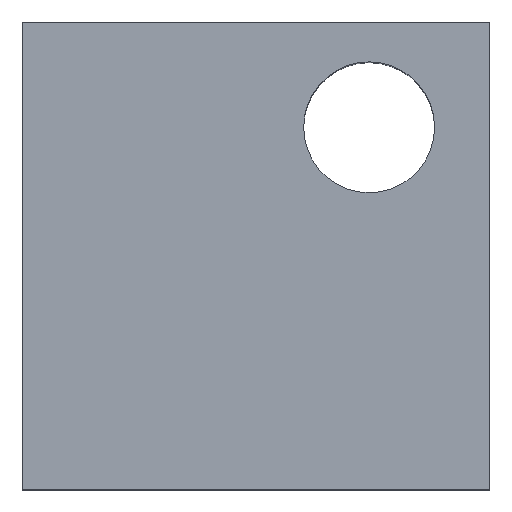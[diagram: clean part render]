
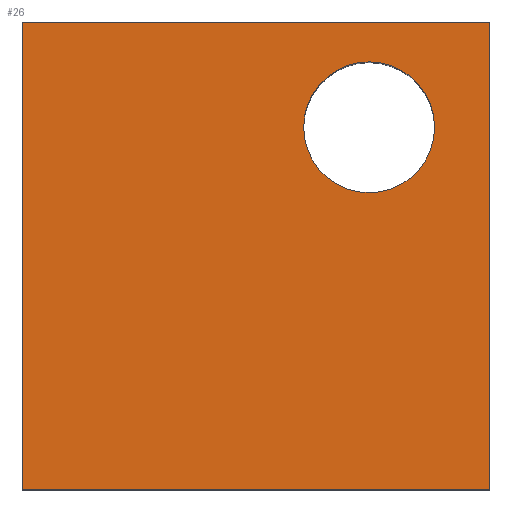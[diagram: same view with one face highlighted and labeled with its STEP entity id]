
A CAD part, top view. The second image highlights one B-rep face of the part: STEP entity #26.
In plain terms, the highlighted planar face has unit normal (0, 0, 1).
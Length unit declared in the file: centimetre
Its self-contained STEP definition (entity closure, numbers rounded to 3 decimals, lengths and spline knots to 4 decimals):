
#1 = AXIS2_PLACEMENT_3D ( 'NONE', #369, #212, #147 ) ;
#17 = CARTESIAN_POINT ( 'NONE',  ( 882.1807, 774.6054, 1000. ) ) ;
#20 = DIRECTION ( 'NONE',  ( 0., 0., -1. ) ) ;
#26 = ADVANCED_FACE ( 'NONE', ( #202, #272 ), #270, .T. ) ;
#28 = ORIENTED_EDGE ( 'NONE', *, *, #248, .T. ) ;
#42 = LINE ( 'NONE', #287, #184 ) ;
#60 = DIRECTION ( 'NONE',  ( 0., 1., 0. ) ) ;
#69 = EDGE_CURVE ( 'NONE', #247, #334, #151, .T. ) ;
#78 = VERTEX_POINT ( 'NONE', #209 ) ;
#111 = DIRECTION ( 'NONE',  ( -1., 0., 0. ) ) ;
#112 = DIRECTION ( 'NONE',  ( -1., 0., 0. ) ) ;
#114 = AXIS2_PLACEMENT_3D ( 'NONE', #144, #20, #111 ) ;
#116 = CARTESIAN_POINT ( 'NONE',  ( 0., 0., 1000. ) ) ;
#126 = AXIS2_PLACEMENT_3D ( 'NONE', #176, #214, #112 ) ;
#130 = CARTESIAN_POINT ( 'NONE',  ( 1000., 1000., 1000. ) ) ;
#143 = VECTOR ( 'NONE', #60, 100. ) ;
#144 = CARTESIAN_POINT ( 'NONE',  ( 742.0878, 774.6054, 1000. ) ) ;
#147 = DIRECTION ( 'NONE',  ( 1., 0., 0. ) ) ;
#151 = CIRCLE ( 'NONE', #114, 140.0928 ) ;
#163 = DIRECTION ( 'NONE',  ( -1., 0., 0. ) ) ;
#170 = LINE ( 'NONE', #296, #187 ) ;
#176 = CARTESIAN_POINT ( 'NONE',  ( 742.0878, 774.6054, 1000. ) ) ;
#180 = EDGE_CURVE ( 'NONE', #78, #374, #238, .T. ) ;
#184 = VECTOR ( 'NONE', #163, 100. ) ;
#187 = VECTOR ( 'NONE', #298, 100. ) ;
#202 = FACE_BOUND ( 'NONE', #282, .T. ) ;
#206 = EDGE_CURVE ( 'NONE', #222, #308, #170, .T. ) ;
#209 = CARTESIAN_POINT ( 'NONE',  ( 1000., 0., 1000. ) ) ;
#212 = DIRECTION ( 'NONE',  ( 0., 0., 1. ) ) ;
#214 = DIRECTION ( 'NONE',  ( 0., 0., -1. ) ) ;
#215 = CIRCLE ( 'NONE', #126, 140.0928 ) ;
#222 = VERTEX_POINT ( 'NONE', #396 ) ;
#238 = LINE ( 'NONE', #342, #143 ) ;
#240 = ORIENTED_EDGE ( 'NONE', *, *, #206, .T. ) ;
#247 = VERTEX_POINT ( 'NONE', #17 ) ;
#248 = EDGE_CURVE ( 'NONE', #334, #247, #215, .T. ) ;
#249 = ORIENTED_EDGE ( 'NONE', *, *, #69, .T. ) ;
#254 = EDGE_CURVE ( 'NONE', #308, #78, #403, .T. ) ;
#270 = PLANE ( 'NONE',  #1 ) ;
#272 = FACE_OUTER_BOUND ( 'NONE', #345, .T. ) ;
#282 = EDGE_LOOP ( 'NONE', ( #28, #249 ) ) ;
#287 = CARTESIAN_POINT ( 'NONE',  ( 0., 1000., 1000. ) ) ;
#296 = CARTESIAN_POINT ( 'NONE',  ( 0., 1000., 1000. ) ) ;
#298 = DIRECTION ( 'NONE',  ( 0., -1., 0. ) ) ;
#308 = VERTEX_POINT ( 'NONE', #353 ) ;
#319 = CARTESIAN_POINT ( 'NONE',  ( 601.995, 774.6054, 1000. ) ) ;
#321 = ORIENTED_EDGE ( 'NONE', *, *, #254, .T. ) ;
#331 = VECTOR ( 'NONE', #370, 100. ) ;
#334 = VERTEX_POINT ( 'NONE', #319 ) ;
#342 = CARTESIAN_POINT ( 'NONE',  ( 1000., 1000., 1000. ) ) ;
#344 = EDGE_CURVE ( 'NONE', #374, #222, #42, .T. ) ;
#345 = EDGE_LOOP ( 'NONE', ( #240, #321, #355, #365 ) ) ;
#353 = CARTESIAN_POINT ( 'NONE',  ( 0., 0., 1000. ) ) ;
#355 = ORIENTED_EDGE ( 'NONE', *, *, #180, .T. ) ;
#365 = ORIENTED_EDGE ( 'NONE', *, *, #344, .T. ) ;
#369 = CARTESIAN_POINT ( 'NONE',  ( 0., 0., 1000. ) ) ;
#370 = DIRECTION ( 'NONE',  ( 1., 0., 0. ) ) ;
#374 = VERTEX_POINT ( 'NONE', #130 ) ;
#396 = CARTESIAN_POINT ( 'NONE',  ( 0., 1000., 1000. ) ) ;
#403 = LINE ( 'NONE', #116, #331 ) ;
